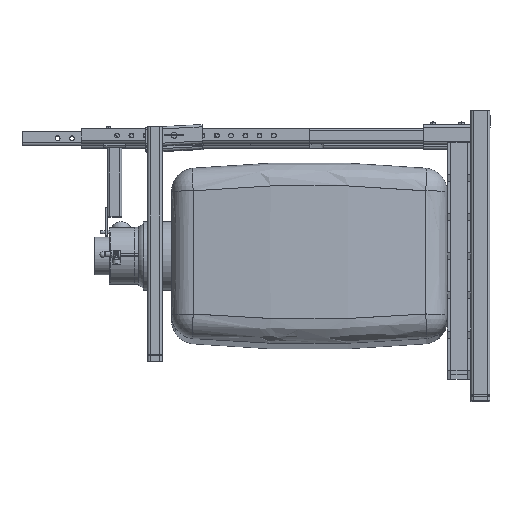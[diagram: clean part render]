
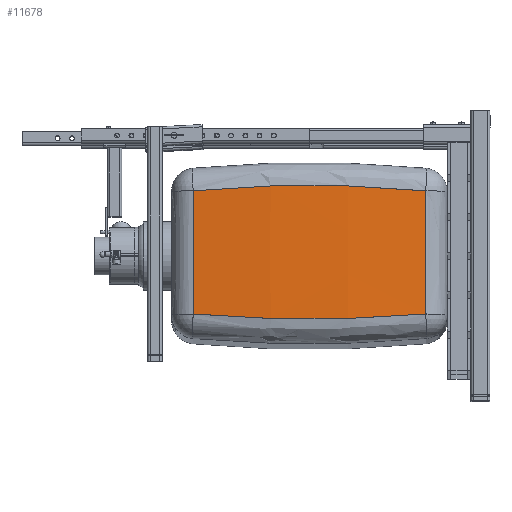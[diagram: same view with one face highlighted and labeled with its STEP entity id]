
A CAD part, left-side view. The second image highlights one B-rep face of the part: STEP entity #11678.
In plain terms, the highlighted free-form (B-spline) face has degree [3, 3] with [4, 4] control points.
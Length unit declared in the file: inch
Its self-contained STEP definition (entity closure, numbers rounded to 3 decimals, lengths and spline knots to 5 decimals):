
#42=B_SPLINE_SURFACE_WITH_KNOTS('',3,3,((#22619,#22620,#22621,#22622),(#22623,
#22624,#22625,#22626),(#22627,#22628,#22629,#22630),(#22631,#22632,#22633,
#22634)),.UNSPECIFIED.,.F.,.F.,.F.,(4,4),(4,4),(0.13104,0.86896),
(0.07788,0.92121),.UNSPECIFIED.);
#143=B_SPLINE_CURVE_WITH_KNOTS('',3,(#21951,#21952,#21953,#21954),
 .UNSPECIFIED.,.F.,.F.,(4,4),(12.64636,78.58067),
 .UNSPECIFIED.);
#146=B_SPLINE_CURVE_WITH_KNOTS('',3,(#22059,#22060,#22061,#22062),
 .UNSPECIFIED.,.F.,.F.,(4,4),(-78.55513,-12.64734),
 .UNSPECIFIED.);
#149=B_SPLINE_CURVE_WITH_KNOTS('',3,(#22144,#22145,#22146,#22147,#22148,
#22149,#22150),.UNSPECIFIED.,.F.,.F.,(4,1,1,1,4),(11.44779,37.64654,
63.84529,98.77695,133.70861),.UNSPECIFIED.);
#162=B_SPLINE_CURVE_WITH_KNOTS('',3,(#22560,#22561,#22562,#22563,#22564,
#22565,#22566),.UNSPECIFIED.,.F.,.F.,(4,1,1,1,4),(-133.70861,-98.77695,
-63.84529,-37.64654,-11.44779),.UNSPECIFIED.);
#2327=FACE_OUTER_BOUND('',#3134,.T.);
#3134=EDGE_LOOP('',(#10330,#10331,#10332,#10333));
#5739=VERTEX_POINT('',#21892);
#5744=VERTEX_POINT('',#21905);
#5748=VERTEX_POINT('',#21957);
#5758=VERTEX_POINT('',#22024);
#7271=EDGE_CURVE('',#5744,#5739,#143,.T.);
#7286=EDGE_CURVE('',#5748,#5758,#146,.T.);
#7289=EDGE_CURVE('',#5758,#5744,#149,.T.);
#7305=EDGE_CURVE('',#5739,#5748,#162,.T.);
#10330=ORIENTED_EDGE('',*,*,#7286,.F.);
#10331=ORIENTED_EDGE('',*,*,#7305,.F.);
#10332=ORIENTED_EDGE('',*,*,#7271,.F.);
#10333=ORIENTED_EDGE('',*,*,#7289,.F.);
#11678=ADVANCED_FACE('',(#2327),#42,.T.);
#21892=CARTESIAN_POINT('',(-17.95808,53.45905,12.9792));
#21905=CARTESIAN_POINT('',(-17.95808,53.45905,-12.9792));
#21951=CARTESIAN_POINT('Ctrl Pts',(-17.95808,53.45905,-12.9792));
#21952=CARTESIAN_POINT('Ctrl Pts',(-17.95808,53.45905,-4.3264));
#21953=CARTESIAN_POINT('Ctrl Pts',(-17.95808,53.45905,4.3264));
#21954=CARTESIAN_POINT('Ctrl Pts',(-17.95808,53.45905,12.9792));
#21957=CARTESIAN_POINT('',(-17.95324,4.54516,12.97397));
#22024=CARTESIAN_POINT('',(-17.95324,4.54516,-12.97397));
#22059=CARTESIAN_POINT('Ctrl Pts',(-17.95324,4.54516,12.97397));
#22060=CARTESIAN_POINT('Ctrl Pts',(-17.95324,4.54516,4.32466));
#22061=CARTESIAN_POINT('Ctrl Pts',(-17.95324,4.54516,-4.32466));
#22062=CARTESIAN_POINT('Ctrl Pts',(-17.95324,4.54516,-12.97397));
#22144=CARTESIAN_POINT('Ctrl Pts',(-17.95324,4.54516,-12.97397));
#22145=CARTESIAN_POINT('Ctrl Pts',(-18.27049,8.0182,-13.28544));
#22146=CARTESIAN_POINT('Ctrl Pts',(-18.77369,14.9896,-13.77938));
#22147=CARTESIAN_POINT('Ctrl Pts',(-19.16128,26.6594,-14.15972));
#22148=CARTESIAN_POINT('Ctrl Pts',(-18.99751,39.51463,-13.99901));
#22149=CARTESIAN_POINT('Ctrl Pts',(-18.38524,48.82602,-13.39831));
#22150=CARTESIAN_POINT('Ctrl Pts',(-17.95808,53.45905,-12.9792));
#22560=CARTESIAN_POINT('Ctrl Pts',(-17.95808,53.45905,12.9792));
#22561=CARTESIAN_POINT('Ctrl Pts',(-18.38524,48.82602,13.39831));
#22562=CARTESIAN_POINT('Ctrl Pts',(-18.99751,39.51463,13.99901));
#22563=CARTESIAN_POINT('Ctrl Pts',(-19.16128,26.6594,14.15972));
#22564=CARTESIAN_POINT('Ctrl Pts',(-18.77369,14.9896,13.77938));
#22565=CARTESIAN_POINT('Ctrl Pts',(-18.27049,8.0182,13.28544));
#22566=CARTESIAN_POINT('Ctrl Pts',(-17.95324,4.54516,12.97397));
#22619=CARTESIAN_POINT('Ctrl Pts',(-17.95324,4.54516,-13.24799));
#22620=CARTESIAN_POINT('Ctrl Pts',(-19.45114,20.9432,-14.35332));
#22621=CARTESIAN_POINT('Ctrl Pts',(-19.45275,37.24783,-14.3545));
#22622=CARTESIAN_POINT('Ctrl Pts',(-17.95808,53.45905,-13.25156));
#22623=CARTESIAN_POINT('Ctrl Pts',(-17.95324,4.54516,-4.416));
#22624=CARTESIAN_POINT('Ctrl Pts',(-19.45114,20.9432,-4.78444));
#22625=CARTESIAN_POINT('Ctrl Pts',(-19.45275,37.24783,-4.78483));
#22626=CARTESIAN_POINT('Ctrl Pts',(-17.95808,53.45905,-4.41719));
#22627=CARTESIAN_POINT('Ctrl Pts',(-17.95324,4.54516,4.416));
#22628=CARTESIAN_POINT('Ctrl Pts',(-19.45114,20.9432,4.78444));
#22629=CARTESIAN_POINT('Ctrl Pts',(-19.45275,37.24783,4.78483));
#22630=CARTESIAN_POINT('Ctrl Pts',(-17.95808,53.45905,4.41719));
#22631=CARTESIAN_POINT('Ctrl Pts',(-17.95324,4.54516,13.24799));
#22632=CARTESIAN_POINT('Ctrl Pts',(-19.45114,20.9432,14.35332));
#22633=CARTESIAN_POINT('Ctrl Pts',(-19.45275,37.24783,14.3545));
#22634=CARTESIAN_POINT('Ctrl Pts',(-17.95808,53.45905,13.25156));
